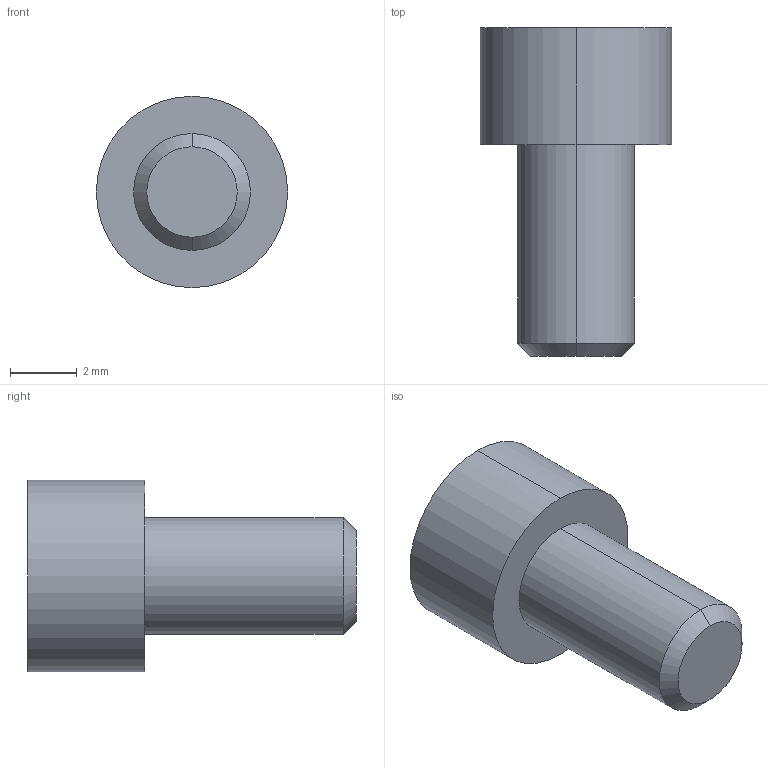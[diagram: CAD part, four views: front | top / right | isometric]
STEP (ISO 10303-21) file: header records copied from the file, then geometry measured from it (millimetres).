
FILE_DESCRIPTION (( 'STEP AP203' ), '1' );
FILE_NAME ('CS0632-250.step', '2014-02-28T01:36:54', ( '' ), ( '' ), 'SwSTEP 2.0', 'SolidWorks 2009', '' );
FILE_SCHEMA (( 'CONFIG_CONTROL_DESIGN' ));
Length unit declared in the file: inch
Products named in the file (1): CS0632-250
Bounding box: 5.74 x 9.86 x 5.74 mm (x, y, z)
Volume: 141.9 mm3; surface area: 195.5 mm2
Topology: 1 solids, 1 shells, 16 faces, 34 edges, 22 vertices
Faces by surface type: plane 10, cylinder 4, cone 2
Entity records: 511 total; most frequent: DIRECTION 78, CARTESIAN_POINT 73, ORIENTED_EDGE 68, EDGE_CURVE 34, AXIS2_PLACEMENT_3D 27, VECTOR 24, LINE 24, VERTEX_POINT 22
